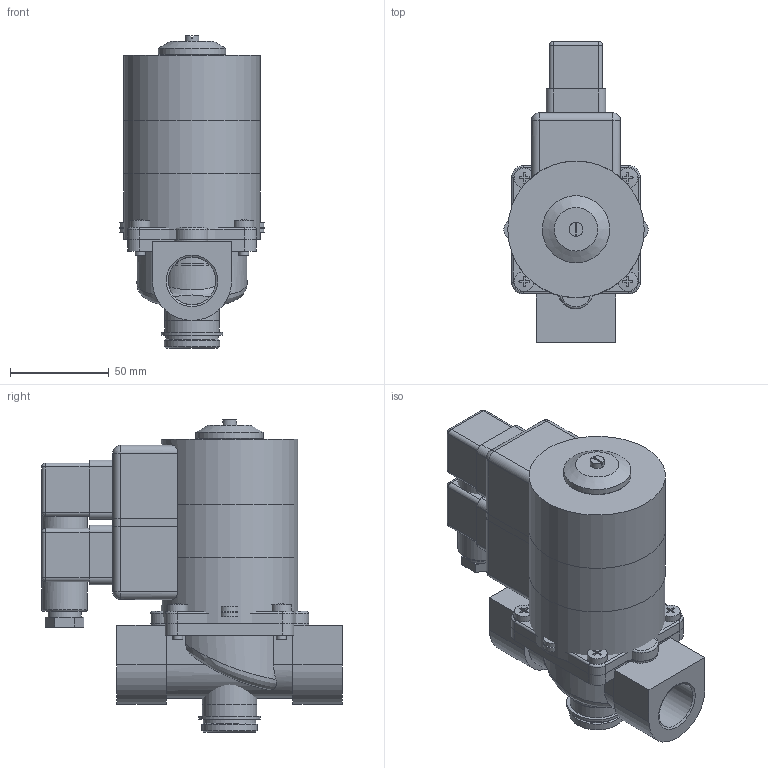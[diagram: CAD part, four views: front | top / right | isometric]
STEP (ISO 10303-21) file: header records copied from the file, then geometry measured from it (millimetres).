
FILE_DESCRIPTION( ( 'Unknown' ), '1' );
FILE_NAME( 'D:/Wyroby/Widoki gabarytowe/Zawory ZEP/ZEP_20/ZEP_20.stp', 'Unknown', ( 'Unknown' ), ( 'Unknown' ), 'XStep 1.0', 'Unknown', ' ' );
FILE_SCHEMA( ( 'CONFIG_CONTROL_DESIGN' ) );
Length unit declared in the file: millimetre
Products named in the file (28): Wa_007_01_02; Wa_127_01_01; Assem1; Wa_127_01_00; Wa_127_01_00_005; Wa_127_01_00_006; Wa_127_01_00_007; Wa_127_01_00_009; Wa_127_01_00_004; Wa_127_01_00_001; Wa_127_01_00_012wygieta2mm; Wa_007_01_02_003k1; Wa_007_01_02_002k1; Wa_007_01_02_001k1; Korpus_MVPE_20; Wa_127_01_00_002; Wa_127_01_00_003; W-036M5x14krzy¿.; Wa_007_01_00_007; W-008 wkrêt m4x12; Wa_007_01_00_002; Wa_136_01_00_005; Wa_163_01_03_008彡i從i黎a26,9; Cewka_25
Bounding box: 72.96 x 152 x 157.8 mm (x, y, z)
Volume: 1172871 mm3; surface area: 380925.1 mm2
Topology: 81 solids, 81 shells, 1582 faces, 3546 edges, 2261 vertices
Faces by surface type: plane 666, cylinder 558, cone 236, torus 67, sphere 28, bspline 27
Full cylindrical faces by diameter (mm): 1 x3, 3 x12, 3.242 x4, 3.5 x3, 4 x3, 4.134 x12, 4.2 x3, 4.917 x4, 5 x27, 5.5 x12, 6 x8, 7 x15, 7.1 x4, 8 x4, 9.5 x4, 10 x16, 10.5 x4, 10.917 x4, 12 x14, 17 x2, 18 x3, 21 x3, 22 x8, 22.5 x3, 22.7 x16, 23 x2, 24 x8, 24.117 x6, 24.8 x4, 24.917 x8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
Entity records: 19376 total; most frequent: CARTESIAN_POINT 7569, DIRECTION 2346, ORIENTED_EDGE 1800, AXIS2_PLACEMENT_3D 1006, EDGE_CURVE 900, EDGE_LOOP 778, VERTEX_POINT 672, FACE_OUTER_BOUND 612
